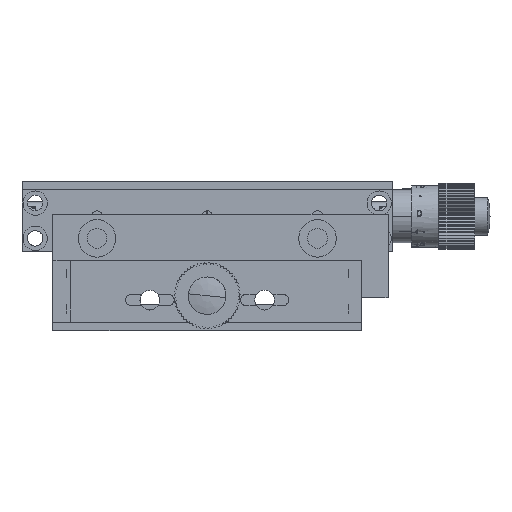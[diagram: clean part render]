
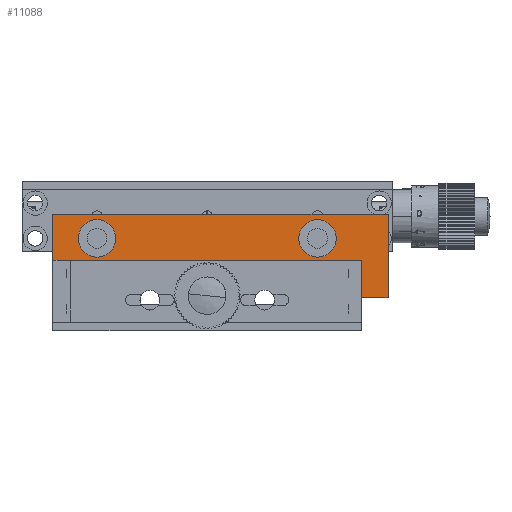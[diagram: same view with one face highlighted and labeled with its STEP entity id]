
A CAD part, front view. The second image highlights one B-rep face of the part: STEP entity #11088.
In plain terms, the highlighted planar face has unit normal (0, -1, 0).
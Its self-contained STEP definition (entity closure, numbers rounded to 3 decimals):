
#156 = DIRECTION ( 'NONE',  ( 0., 0., -1. ) ) ;
#658 = DIRECTION ( 'NONE',  ( 0., 0., 1. ) ) ;
#700 = ORIENTED_EDGE ( 'NONE', *, *, #38165, .F. ) ;
#1510 = VERTEX_POINT ( 'NONE', #10027 ) ;
#2111 = EDGE_CURVE ( 'NONE', #21125, #35576, #23502, .T. ) ;
#2134 = VECTOR ( 'NONE', #28582, 1000. ) ;
#2252 = AXIS2_PLACEMENT_3D ( 'NONE', #43101, #21194, #156 ) ;
#2734 = ORIENTED_EDGE ( 'NONE', *, *, #45504, .F. ) ;
#3226 = EDGE_LOOP ( 'NONE', ( #45686, #7974 ) ) ;
#3332 = ORIENTED_EDGE ( 'NONE', *, *, #14130, .F. ) ;
#5199 = EDGE_CURVE ( 'NONE', #17147, #38515, #17413, .T. ) ;
#5243 = CARTESIAN_POINT ( 'NONE',  ( -58.036, -43.566, -10.003 ) ) ;
#6204 = AXIS2_PLACEMENT_3D ( 'NONE', #20428, #27841, #45296 ) ;
#7974 = ORIENTED_EDGE ( 'NONE', *, *, #30386, .F. ) ;
#10027 = CARTESIAN_POINT ( 'NONE',  ( -48.036, -43.566, -0.753 ) ) ;
#10582 = LINE ( 'NONE', #46384, #43274 ) ;
#11088 = ADVANCED_FACE ( 'NONE', ( #18514, #30910, #41065 ), #17730, .F. ) ;
#11438 = VECTOR ( 'NONE', #20621, 1000. ) ;
#13811 = AXIS2_PLACEMENT_3D ( 'NONE', #15345, #40554, #33488 ) ;
#14130 = EDGE_CURVE ( 'NONE', #14373, #26030, #36389, .T. ) ;
#14373 = VERTEX_POINT ( 'NONE', #40930 ) ;
#14786 = CARTESIAN_POINT ( 'NONE',  ( -58.036, -43.566, -9.003 ) ) ;
#15345 = CARTESIAN_POINT ( 'NONE',  ( 1.964, -43.566, -5.003 ) ) ;
#15870 = ORIENTED_EDGE ( 'NONE', *, *, #5199, .F. ) ;
#15974 = DIRECTION ( 'NONE',  ( -1., 0., 0. ) ) ;
#16005 = CARTESIAN_POINT ( 'NONE',  ( -58.036, -43.566, 0.497 ) ) ;
#16076 = DIRECTION ( 'NONE',  ( 0., 0., -1. ) ) ;
#16542 = ORIENTED_EDGE ( 'NONE', *, *, #2111, .F. ) ;
#17147 = VERTEX_POINT ( 'NONE', #18840 ) ;
#17413 = LINE ( 'NONE', #42988, #19122 ) ;
#17730 = PLANE ( 'NONE',  #2252 ) ;
#18095 = DIRECTION ( 'NONE',  ( -1., 0., 0. ) ) ;
#18514 = FACE_BOUND ( 'NONE', #3226, .T. ) ;
#18840 = CARTESIAN_POINT ( 'NONE',  ( 17.964, -43.566, 0.497 ) ) ;
#19122 = VECTOR ( 'NONE', #32635, 1000. ) ;
#20200 = DIRECTION ( 'NONE',  ( 0., 0., -1. ) ) ;
#20428 = CARTESIAN_POINT ( 'NONE',  ( -48.036, -43.566, -5.003 ) ) ;
#20621 = DIRECTION ( 'NONE',  ( 1., 0., 0. ) ) ;
#21014 = LINE ( 'NONE', #30890, #11438 ) ;
#21072 = AXIS2_PLACEMENT_3D ( 'NONE', #34219, #34523, #16076 ) ;
#21125 = VERTEX_POINT ( 'NONE', #38849 ) ;
#21126 = CARTESIAN_POINT ( 'NONE',  ( 17.964, -43.566, -18.503 ) ) ;
#21194 = DIRECTION ( 'NONE',  ( 0., 1., 0. ) ) ;
#21281 = VECTOR ( 'NONE', #658, 1000. ) ;
#22257 = ORIENTED_EDGE ( 'NONE', *, *, #32616, .F. ) ;
#22575 = AXIS2_PLACEMENT_3D ( 'NONE', #45207, #41778, #20200 ) ;
#22946 = ORIENTED_EDGE ( 'NONE', *, *, #38310, .F. ) ;
#23038 = CARTESIAN_POINT ( 'NONE',  ( -20.036, -43.566, -18.503 ) ) ;
#23151 = ORIENTED_EDGE ( 'NONE', *, *, #45698, .F. ) ;
#23502 = LINE ( 'NONE', #34172, #2134 ) ;
#24079 = VECTOR ( 'NONE', #15974, 1000. ) ;
#24584 = CIRCLE ( 'NONE', #22575, 4.25 ) ;
#24669 = CARTESIAN_POINT ( 'NONE',  ( 11.964, -43.566, -10.003 ) ) ;
#25836 = VERTEX_POINT ( 'NONE', #32754 ) ;
#26030 = VERTEX_POINT ( 'NONE', #39956 ) ;
#27275 = EDGE_CURVE ( 'NONE', #25836, #1510, #39392, .T. ) ;
#27841 = DIRECTION ( 'NONE',  ( 0., -1., 0. ) ) ;
#28582 = DIRECTION ( 'NONE',  ( 0., 0., 1. ) ) ;
#30386 = EDGE_CURVE ( 'NONE', #1510, #25836, #24584, .T. ) ;
#30885 = LINE ( 'NONE', #14786, #21281 ) ;
#30890 = CARTESIAN_POINT ( 'NONE',  ( -20.036, -43.566, 0.497 ) ) ;
#30910 = FACE_BOUND ( 'NONE', #34382, .T. ) ;
#32616 = EDGE_CURVE ( 'NONE', #33424, #17147, #21014, .T. ) ;
#32635 = DIRECTION ( 'NONE',  ( 0., 0., -1. ) ) ;
#32754 = CARTESIAN_POINT ( 'NONE',  ( -48.036, -43.566, -9.253 ) ) ;
#33424 = VERTEX_POINT ( 'NONE', #16005 ) ;
#33488 = DIRECTION ( 'NONE',  ( 0., 0., -1. ) ) ;
#34172 = CARTESIAN_POINT ( 'NONE',  ( 11.964, -43.566, -9.003 ) ) ;
#34219 = CARTESIAN_POINT ( 'NONE',  ( 1.964, -43.566, -5.003 ) ) ;
#34382 = EDGE_LOOP ( 'NONE', ( #700, #3332 ) ) ;
#34523 = DIRECTION ( 'NONE',  ( 0., -1., 0. ) ) ;
#34817 = LINE ( 'NONE', #23038, #24079 ) ;
#35576 = VERTEX_POINT ( 'NONE', #24669 ) ;
#36073 = EDGE_LOOP ( 'NONE', ( #16542, #22946, #15870, #22257, #23151, #2734 ) ) ;
#36389 = CIRCLE ( 'NONE', #21072, 4.25 ) ;
#38165 = EDGE_CURVE ( 'NONE', #26030, #14373, #42706, .T. ) ;
#38310 = EDGE_CURVE ( 'NONE', #38515, #21125, #34817, .T. ) ;
#38515 = VERTEX_POINT ( 'NONE', #21126 ) ;
#38849 = CARTESIAN_POINT ( 'NONE',  ( 11.964, -43.566, -18.503 ) ) ;
#39392 = CIRCLE ( 'NONE', #6204, 4.25 ) ;
#39956 = CARTESIAN_POINT ( 'NONE',  ( 1.964, -43.566, -9.253 ) ) ;
#40554 = DIRECTION ( 'NONE',  ( 0., -1., 0. ) ) ;
#40930 = CARTESIAN_POINT ( 'NONE',  ( 1.964, -43.566, -0.753 ) ) ;
#41065 = FACE_OUTER_BOUND ( 'NONE', #36073, .T. ) ;
#41778 = DIRECTION ( 'NONE',  ( 0., -1., 0. ) ) ;
#42706 = CIRCLE ( 'NONE', #13811, 4.25 ) ;
#42988 = CARTESIAN_POINT ( 'NONE',  ( 17.964, -43.566, -9.003 ) ) ;
#43101 = CARTESIAN_POINT ( 'NONE',  ( 17.964, -43.566, 0.497 ) ) ;
#43274 = VECTOR ( 'NONE', #18095, 1000. ) ;
#45207 = CARTESIAN_POINT ( 'NONE',  ( -48.036, -43.566, -5.003 ) ) ;
#45296 = DIRECTION ( 'NONE',  ( 0., 0., -1. ) ) ;
#45504 = EDGE_CURVE ( 'NONE', #35576, #46605, #10582, .T. ) ;
#45686 = ORIENTED_EDGE ( 'NONE', *, *, #27275, .F. ) ;
#45698 = EDGE_CURVE ( 'NONE', #46605, #33424, #30885, .T. ) ;
#46384 = CARTESIAN_POINT ( 'NONE',  ( -20.036, -43.566, -10.003 ) ) ;
#46605 = VERTEX_POINT ( 'NONE', #5243 ) ;
